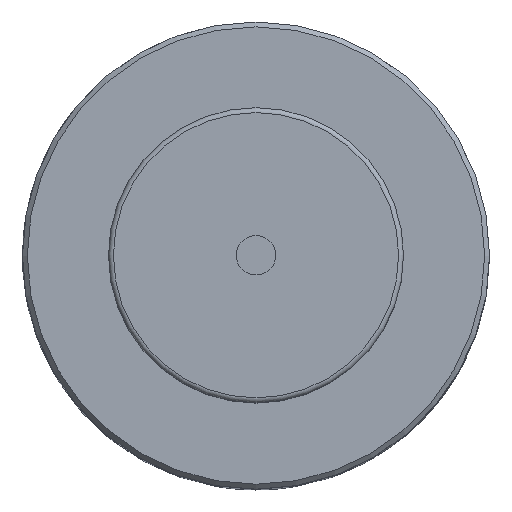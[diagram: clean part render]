
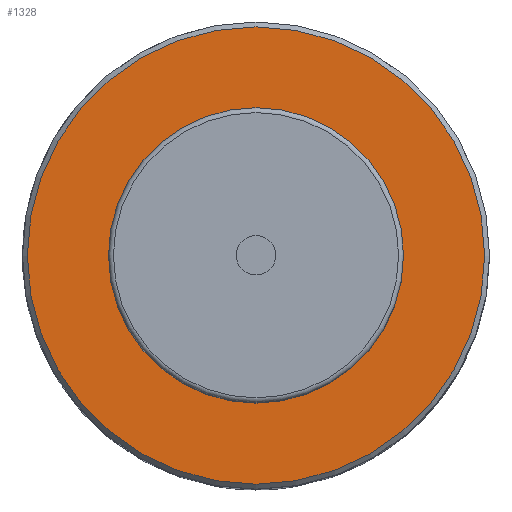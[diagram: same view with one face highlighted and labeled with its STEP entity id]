
A CAD part, top view. The second image highlights one B-rep face of the part: STEP entity #1328.
In plain terms, the highlighted planar face has unit normal (0, 0, 1).
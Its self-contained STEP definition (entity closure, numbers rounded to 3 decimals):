
#1308 = VERTEX_POINT('',#1309);
#1309 = CARTESIAN_POINT('',(46.5,0.,99.));
#1317 = EDGE_CURVE('',#1308,#1308,#1318,.T.);
#1318 = CIRCLE('',#1319,46.5);
#1319 = AXIS2_PLACEMENT_3D('',#1320,#1321,#1322);
#1320 = CARTESIAN_POINT('',(0.,0.,99.));
#1321 = DIRECTION('',(0.,0.,1.));
#1322 = DIRECTION('',(1.,0.,-0.));
#1328 = ADVANCED_FACE('',(#1329),#1332,.T.);
#1329 = FACE_BOUND('',#1330,.T.);
#1330 = EDGE_LOOP('',(#1331));
#1331 = ORIENTED_EDGE('',*,*,#1317,.T.);
#1332 = PLANE('',#1333);
#1333 = AXIS2_PLACEMENT_3D('',#1334,#1335,#1336);
#1334 = CARTESIAN_POINT('',(0.,0.,99.));
#1335 = DIRECTION('',(0.,0.,1.));
#1336 = DIRECTION('',(1.,0.,-0.));
